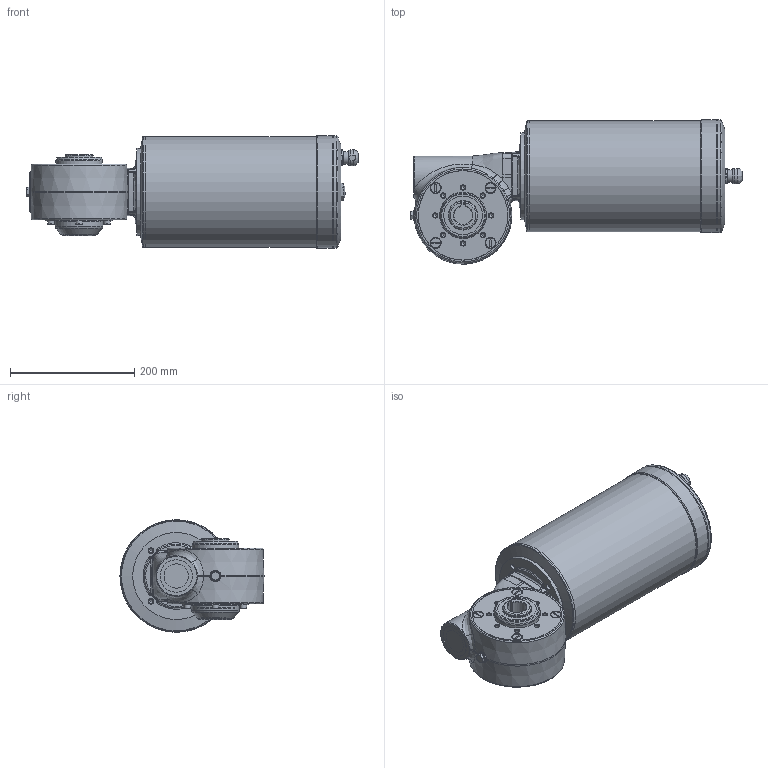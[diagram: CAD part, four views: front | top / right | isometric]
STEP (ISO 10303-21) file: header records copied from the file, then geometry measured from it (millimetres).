
FILE_DESCRIPTION( ( 'Unknown' ), '1' );
FILE_NAME( 'E:/services/configuratordownloads/customers/CLEANGEARTECH/VFN/download/3DAD686C558D56979BA6F370AD0275C/STEP/3DAD686C558D56979BA6F370AD0275C.3d.stp', 'Unknown', ( 'Unknown' ), ( 'Unknown' ), 'PSStep 10.1', 'Unknown', ' ' );
FILE_SCHEMA( ( 'AUTOMOTIVE_DESIGN { 1 0 10303 214 1 1 1 1 }' ) );
Length unit declared in the file: millimetre
Products named in the file (1): N638800
Bounding box: 533.8 x 231.76 x 181 mm (x, y, z)
Volume: 10154938 mm3; surface area: 393987.5 mm2
Topology: 1 solids, 23 shells, 602 faces, 1427 edges, 915 vertices
Faces by surface type: plane 197, cylinder 127, cone 124, bspline 108, torus 41, revolution 4, sphere 1
Full cylindrical faces by diameter (mm): 6.647 x28, 7 x1, 8 x8, 8.5 x4, 9 x8, 10.5 x4, 13 x4, 13.4 x1, 14 x4, 16.662 x1, 18 x1, 20 x1, 24 x1, 30 x1, 35 x1, 39 x1, 45 x2, 46 x2, 47 x1, 47.5 x2, 52 x1, 62 x2, 75 x2, 85 x1, 95 x2, 107 x1, 140 x1, 144 x1, 177.98 x1, 178 x2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
Entity records: 32189 total; most frequent: CARTESIAN_POINT 16076, DIRECTION 2165, ORIENTED_EDGE 2118, EDGE_CURVE 1059, AXIS2_PLACEMENT_3D 967, EDGE_LOOP 877, VERTEX_POINT 788, FACE_OUTER_BOUND 721
